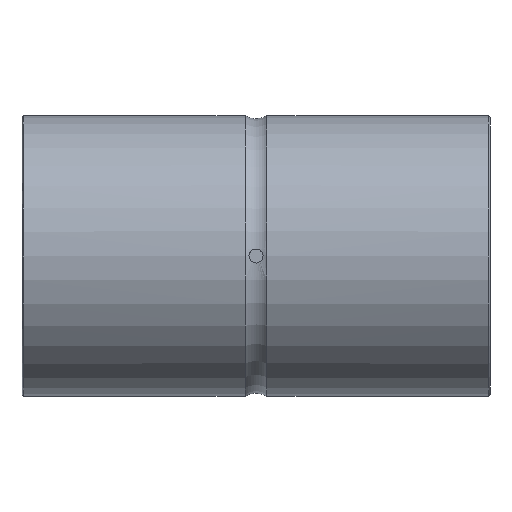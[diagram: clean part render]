
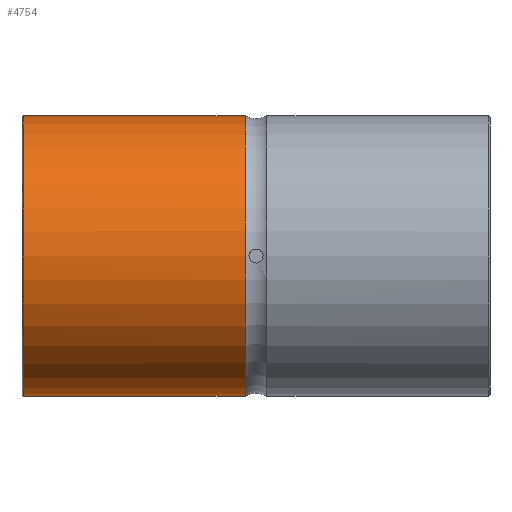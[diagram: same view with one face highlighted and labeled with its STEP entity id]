
A CAD part, front view. The second image highlights one B-rep face of the part: STEP entity #4754.
In plain terms, the highlighted cylindrical face has radius 30 mm (diameter 60 mm), a full revolution.
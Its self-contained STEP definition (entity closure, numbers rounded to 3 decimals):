
#23=B_SPLINE_CURVE_WITH_KNOTS('',3,(#7562,#7563,#7564,#7565,#7566,#7567,
#7568),.UNSPECIFIED.,.F.,.F.,(4,1,1,1,4),(0.,0.004,0.008,
0.012,0.016),.UNSPECIFIED.);
#396=LINE('',#7571,#886);
#397=LINE('',#7572,#887);
#886=VECTOR('',#6083,1000.);
#887=VECTOR('',#6084,1000.);
#1692=ORIENTED_EDGE('',*,*,#2915,.T.);
#1693=ORIENTED_EDGE('',*,*,#2916,.T.);
#1694=ORIENTED_EDGE('',*,*,#2908,.F.);
#1695=ORIENTED_EDGE('',*,*,#2917,.T.);
#1696=ORIENTED_EDGE('',*,*,#2914,.T.);
#2908=EDGE_CURVE('',#3520,#3521,#3891,.T.);
#2914=EDGE_CURVE('',#3526,#3526,#3893,.T.);
#2915=EDGE_CURVE('',#3527,#3528,#23,.T.);
#2916=EDGE_CURVE('',#3528,#3521,#396,.T.);
#2917=EDGE_CURVE('',#3520,#3527,#397,.F.);
#3520=VERTEX_POINT('',#7519);
#3521=VERTEX_POINT('',#7520);
#3526=VERTEX_POINT('',#7560);
#3527=VERTEX_POINT('',#7569);
#3528=VERTEX_POINT('',#7570);
#3891=CIRCLE('',#5185,30.);
#3893=CIRCLE('',#5188,30.);
#4055=EDGE_LOOP('',(#1692,#1693,#1694,#1695));
#4056=EDGE_LOOP('',(#1696));
#4363=FACE_BOUND('',#4055,.T.);
#4364=FACE_BOUND('',#4056,.T.);
#4627=CYLINDRICAL_SURFACE('',#5189,30.);
#4754=ADVANCED_FACE('',(#4363,#4364),#4627,.T.);
#5185=AXIS2_PLACEMENT_3D('',#7518,#6073,#6074);
#5188=AXIS2_PLACEMENT_3D('',#7559,#6079,#6080);
#5189=AXIS2_PLACEMENT_3D('',#7561,#6081,#6082);
#6073=DIRECTION('',(1.,0.,0.));
#6074=DIRECTION('',(0.,0.,-1.));
#6079=DIRECTION('',(1.,0.,0.));
#6080=DIRECTION('',(0.,0.,-1.));
#6081=DIRECTION('',(1.,0.,0.));
#6082=DIRECTION('',(0.,0.,-1.));
#6083=DIRECTION('',(1.,0.,0.));
#6084=DIRECTION('',(1.,0.,0.));
#7518=CARTESIAN_POINT('',(-2.33,0.,0.));
#7519=CARTESIAN_POINT('',(-2.33,29.58,5.));
#7520=CARTESIAN_POINT('',(-2.33,29.58,-5.));
#7559=CARTESIAN_POINT('',(-49.71,0.,0.));
#7560=CARTESIAN_POINT('',(-49.71,0.,-30.));
#7561=CARTESIAN_POINT('',(50.,0.,0.));
#7562=CARTESIAN_POINT('',(-22.5,29.58,5.));
#7563=CARTESIAN_POINT('',(-23.824,29.58,5.));
#7564=CARTESIAN_POINT('',(-26.41,29.792,3.916));
#7565=CARTESIAN_POINT('',(-28.044,30.104,0.006));
#7566=CARTESIAN_POINT('',(-26.413,29.792,-3.916));
#7567=CARTESIAN_POINT('',(-23.824,29.58,-5.));
#7568=CARTESIAN_POINT('',(-22.5,29.58,-5.));
#7569=CARTESIAN_POINT('',(-22.5,29.58,5.));
#7570=CARTESIAN_POINT('',(-22.5,29.58,-5.));
#7571=CARTESIAN_POINT('',(50.,29.58,-5.));
#7572=CARTESIAN_POINT('',(50.,29.58,5.));
